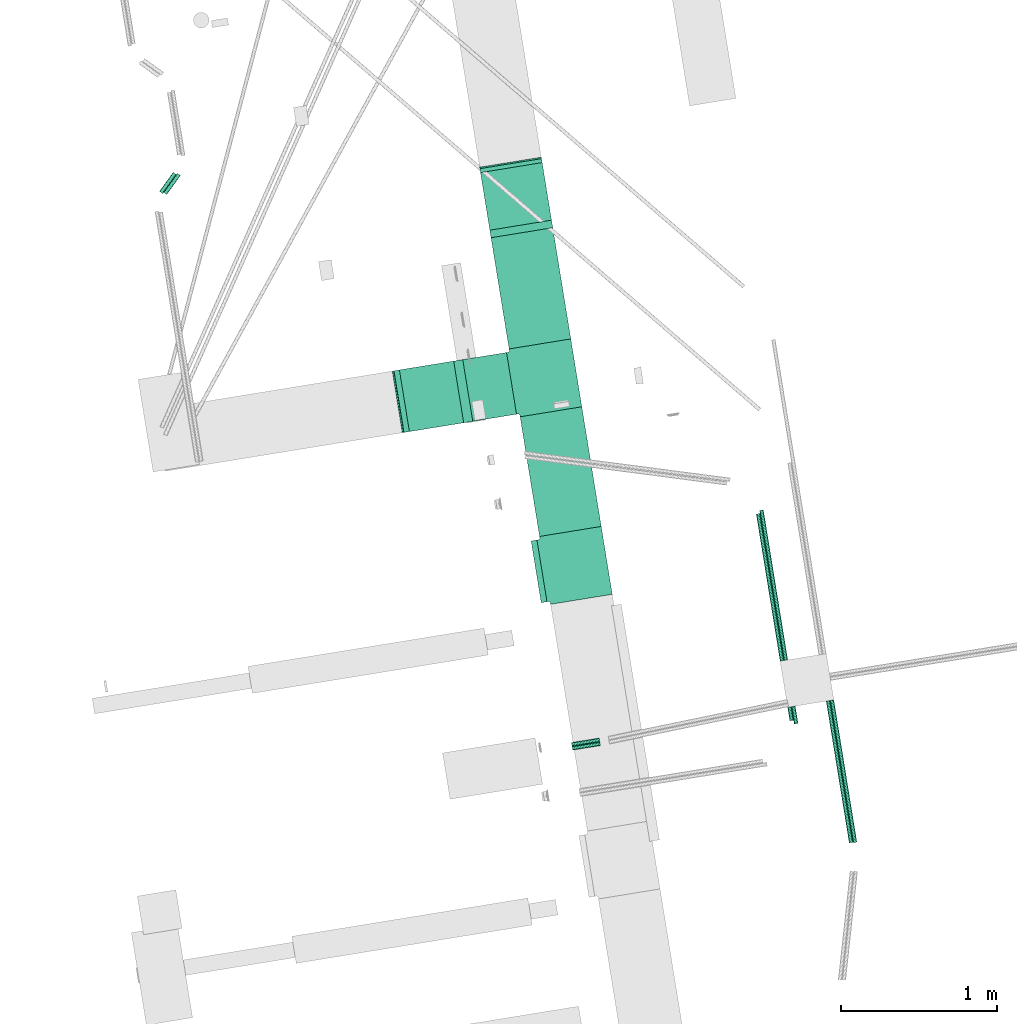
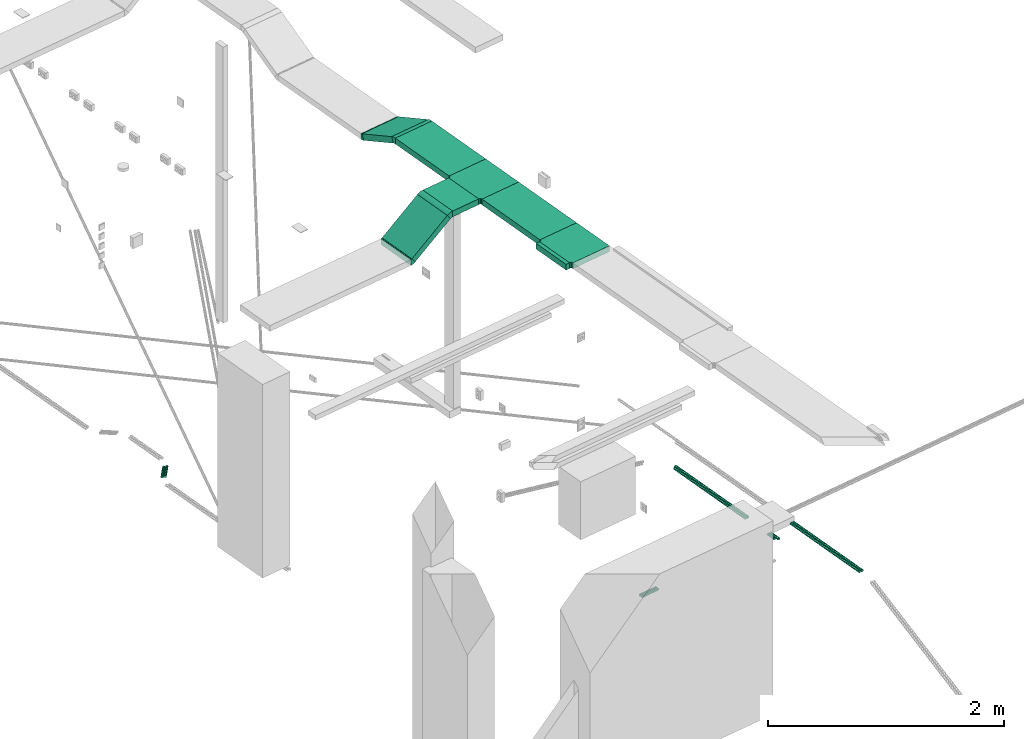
# One storey, part 2 of 33: 16 flow segments, 6 flow fittings.
"""IFC2X3 building model written with IfcOpenShell, lengths in millimetres."""

from ifc_helpers import new_model, entity, si_unit, converted_unit, derived_unit, direction, frame, frame_2d, origin, origin_with_axes, origin_2d_with_axis, place, context, subcontext, project, spatial, polyline, circle_curve, parameter, trimmed, segment, composite_curve, rectangle, circle, outline, extrude, source, transform, mapped, material, type_object, element, save


model = new_model("IFC2X3")

# Units and contexts
plan_context = context("Plan", 3, precision=1e-05, world=origin_with_axes())
model_context = context("Model", 3, precision=0.01, world=origin(), true_north=direction((6.12323399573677e-17, 1.0)))
body_context = subcontext(model_context, "Body", "Model", "MODEL_VIEW")
ifc_project = project(units=[converted_unit("PLANEANGLEUNIT", "DEGREE", entity("IfcPositiveLengthMeasure", 0.0174532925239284), si_unit("PLANEANGLEUNIT", "RADIAN"), dimensions=[0, 0, 0, 0, 0, 0, 0]), si_unit("AREAUNIT", "SQUARE_METRE"), si_unit("LENGTHUNIT", "METRE", prefix="MILLI"), si_unit("MASSUNIT", "GRAM", prefix="KILO"), si_unit("POWERUNIT", "WATT"), si_unit("PRESSUREUNIT", "PASCAL", prefix="KILO"), si_unit("FORCEUNIT", "NEWTON", prefix="KILO"), si_unit("ELECTRICVOLTAGEUNIT", "VOLT"), si_unit("ELECTRICCURRENTUNIT", "AMPERE"), si_unit("THERMODYNAMICTEMPERATUREUNIT", "DEGREE_CELSIUS"), si_unit("TIMEUNIT", "SECOND"), si_unit("VOLUMEUNIT", "CUBIC_METRE"), derived_unit("LINEARVELOCITYUNIT", [(si_unit("LENGTHUNIT", "METRE"), 1), (si_unit("TIMEUNIT", "SECOND"), -1)]), derived_unit("VOLUMETRICFLOWRATEUNIT", [(si_unit("VOLUMEUNIT", "CUBIC_METRE"), 1), (si_unit("TIMEUNIT", "SECOND"), -1)]), derived_unit("THERMALTRANSMITTANCEUNIT", [(si_unit("POWERUNIT", "WATT"), 1), (si_unit("THERMODYNAMICTEMPERATUREUNIT", "KELVIN"), -1), (si_unit("AREAUNIT", "SQUARE_METRE"), -1)]), derived_unit("SOUNDPRESSUREUNIT", [(si_unit("PRESSUREUNIT", "PASCAL"), 1)])], contexts=[model_context, plan_context])

# Site, building, storey
site_placement = place(None, frame((-0.219946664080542, 0.12226179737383, 0.0), z_axis=(0.0, 0.0, 1.0), x_axis=(-0.160236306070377, 0.987078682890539, 0.0)))
site = spatial("IfcSite", under=ifc_project, at=site_placement, Name="Default", CompositionType="ELEMENT")
building_placement = place(site_placement, origin_with_axes())
building = spatial("IfcBuilding", under=site, at=building_placement, CompositionType="ELEMENT")
storey_placement = place(building_placement, frame((0.0, 0.0, 59000.0), z_axis=(0.0, 0.0, 1.0), x_axis=(1.0, 0.0, 0.0)))
storey = spatial("IfcBuildingStorey", under=building, at=storey_placement, Name="Nivå F", CompositionType="ELEMENT", Elevation=59000.0)

# Flow fittings
ifc_material = material(Name="<Unnamed>")
cable_carrier_fitting_type_1 = type_object("IfcCableCarrierFittingType", Name="MC_Ladder Horizontal Tee:10mm Radius", PredefinedType="NOTDEFINED", material=ifc_material)
shared_shape_1 = source(origin(), body_context, "Body", "SweptSolid", [
    extrude(outline(composite_curve([segment(polyline([(84.0, -200.0), (94.0, -200.0)]), True, "CONTINUOUS"), segment(polyline([(94.0, -200.0), (94.0, 200.0)]), True, "CONTINUOUS"), segment(polyline([(94.0, 200.0), (84.0, 200.0)]), True, "CONTINUOUS"), segment(trimmed(circle_curve(frame_2d((84.0, 210.0), x_axis=(0.0, 1.0)), 10.0), [parameter(89.9999999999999)], [parameter(180.0)], True, "PARAMETER"), False, "CONTINUOUS"), segment(polyline([(74.0, 210.0), (74.0, 220.0)]), True, "CONTINUOUS"), segment(polyline([(74.0, 220.0), (-326.0, 220.0)]), True, "CONTINUOUS"), segment(polyline([(-326.0, 220.0), (-326.0, -220.0)]), True, "CONTINUOUS"), segment(polyline([(-326.0, -220.0), (74.0, -220.0)]), True, "CONTINUOUS"), segment(polyline([(74.0, -220.0), (74.0, -210.0)]), True, "CONTINUOUS"), segment(trimmed(circle_curve(frame_2d((84.0, -210.0), x_axis=(0.0, 1.0)), 10.0), [parameter(360.0)], [parameter(89.9999999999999)], True, "PARAMETER"), False, "CONTINUOUS")], self_intersect=False)), frame((0.0, -126.0, -30.0), z_axis=(0.0, 0.0, 1.0), x_axis=(0.0, -1.0, 0.0)), (0.0, 0.0, 1.0), 60.0),
])
for number, where, z_axis, x_axis, name in (
    (1, (769991.824571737, -504237.483203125, 2850.0), (0.0, 0.0, 1.0), (-1.0, 0.0, 0.0), "MC_Ladder Horizontal Tee:10mm Radius"),
    (2, (771207.619460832, -504237.483203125, 2850.0), (0.0, 0.0, 1.0), (-1.0, 0.0, 0.0), "MC_Ladder Horizontal Tee:10mm Radius"),
):
    element("IfcFlowFitting", number, at=place(storey_placement, frame(where, z_axis=z_axis, x_axis=x_axis)), inside=storey, type_object=cable_carrier_fitting_type_1, material=ifc_material, Name=name, ObjectType="MC_Ladder Horizontal Tee:10mm Radius", context=body_context, shape_type="MappedRepresentation", body=[
        mapped(shared_shape_1, transform((0.0, 0.0, 0.0), scale=1.0)),
    ])
cable_carrier_fitting_type_2 = type_object("IfcCableCarrierFittingType", Name="MC_Ladder Vertical Outside Bend:Standard 10mm", PredefinedType="NOTDEFINED", material=ifc_material)
shared_shape_2 = source(origin(), body_context, "Body", "SweptSolid", [
    extrude(outline(composite_curve([segment(polyline([(-21.1853214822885, -35.2026361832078), (-11.1853214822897, -35.2026361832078)]), True, "CONTINUOUS"), segment(trimmed(circle_curve(frame_2d((-11.1853214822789, 34.7973638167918), x_axis=(0.0, -1.0)), 69.9999999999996), [parameter(0.0)], [parameter(35.6391345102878)], True, "PARAMETER"), True, "CONTINUOUS"), segment(polyline([(29.6021527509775, -22.0918438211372), (37.7291824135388, -16.2650617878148)]), True, "CONTINUOUS"), segment(polyline([(37.7291824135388, -16.2650617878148), (2.7684902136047, 32.497116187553)]), True, "CONTINUOUS"), segment(polyline([(2.7684902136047, 32.497116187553), (-5.35853944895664, 26.6703341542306)]), True, "CONTINUOUS"), segment(trimmed(circle_curve(frame_2d((-11.1853214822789, 34.7973638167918), x_axis=(0.0, -1.0)), 9.99999999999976), [parameter(0.0)], [parameter(35.6391345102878)], True, "PARAMETER"), False, "CONTINUOUS"), segment(polyline([(-11.1853214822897, 24.797363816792), (-21.1853214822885, 24.797363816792)]), True, "CONTINUOUS"), segment(polyline([(-21.1853214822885, 24.797363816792), (-21.1853214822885, -35.2026361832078)]), True, "CONTINUOUS")], self_intersect=False)), frame((-1.67234387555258, 5.20263618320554, -200.0)), (0.0, 0.0, 1.0), 400.0),
])
flow_fitting_1_placement = place(storey_placement, frame((771207.619460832, -503710.91466063, 2850.0), z_axis=(-1.0, 0.0, 0.0), x_axis=(0.0, 1.0, 0.0)))
element("IfcFlowFitting", 3, at=flow_fitting_1_placement, inside=storey, type_object=cable_carrier_fitting_type_2, material=ifc_material, Name="MC_Ladder Vertical Outside Bend:Standard 10mm", ObjectType="MC_Ladder Vertical Outside Bend:Standard 10mm", context=body_context, shape_type="MappedRepresentation", body=[
    mapped(shared_shape_2, transform((0.0, 0.0, 0.0), scale=1.0)),
])
cable_carrier_fitting_type_3 = type_object("IfcCableCarrierFittingType", Name="MC_Ladder Vertical Inside Bend_Short:Standard 10mm", PredefinedType="NOTDEFINED", material=ifc_material)
shared_shape_3 = source(origin(), body_context, "Body", "SweptSolid", [
    extrude(outline(composite_curve([segment(polyline([(-14.5130912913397, -34.1829493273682), (-11.5130912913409, -34.1829493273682)]), True, "CONTINUOUS"), segment(trimmed(circle_curve(frame_2d((-11.5130912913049, 35.8170506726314), x_axis=(0.0, -1.0)), 69.9999999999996), [parameter(0.0)], [parameter(35.6391345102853)], True, "PARAMETER"), True, "CONTINUOUS"), segment(polyline([(29.274382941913, -21.072156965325), (31.7124918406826, -19.32412235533)]), True, "CONTINUOUS"), segment(polyline([(31.7124918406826, -19.32412235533), (-3.24820035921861, 29.4380556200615)]), True, "CONTINUOUS"), segment(polyline([(-3.24820035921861, 29.4380556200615), (-5.68630925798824, 27.6900210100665)]), True, "CONTINUOUS"), segment(trimmed(circle_curve(frame_2d((-11.5130912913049, 35.8170506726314), x_axis=(0.0, -1.0)), 9.99999999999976), [parameter(0.0)], [parameter(35.6391345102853)], True, "PARAMETER"), False, "CONTINUOUS"), segment(polyline([(-11.5130912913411, 25.8170506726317), (-14.51309129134, 25.8170506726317)]), True, "CONTINUOUS"), segment(polyline([(-14.51309129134, 25.8170506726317), (-14.5130912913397, -34.1829493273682)]), True, "CONTINUOUS")], self_intersect=False)), frame((-1.34457406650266, 4.18294932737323, -200.0)), (0.0, 0.0, 1.0), 400.0),
])
flow_fitting_2_placement = place(storey_placement, frame((771207.619460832, -503292.483203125, 2550.0), z_axis=(-1.0, 0.0, 0.0), x_axis=(0.0, -1.0, 0.0)))
element("IfcFlowFitting", 4, at=flow_fitting_2_placement, inside=storey, type_object=cable_carrier_fitting_type_3, material=ifc_material, Name="MC_Ladder Vertical Inside Bend_Short:Standard 10mm", ObjectType="MC_Ladder Vertical Inside Bend_Short:Standard 10mm", context=body_context, shape_type="MappedRepresentation", body=[
    mapped(shared_shape_3, transform((0.0, 0.0, 0.0), scale=1.0)),
])
cable_carrier_fitting_type_4 = type_object("IfcCableCarrierFittingType", Name="MC_Ladder Vertical Outside Bend:Standard 10mm", PredefinedType="NOTDEFINED", material=ifc_material)
shared_shape_4 = source(origin(), body_context, "Body", "SweptSolid", [
    extrude(outline(composite_curve([segment(polyline([(-18.2523248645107, -32.9519059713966), (-8.25232486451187, -32.9519059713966)]), True, "CONTINUOUS"), segment(trimmed(circle_curve(frame_2d((-8.25232486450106, 37.048094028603), x_axis=(0.0, -1.0)), 69.9999999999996), [parameter(0.0)], [parameter(25.1148348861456)], True, "PARAMETER"), True, "CONTINUOUS"), segment(polyline([(21.4580464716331, -26.3340314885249), (30.5126358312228, -22.0896927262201)]), True, "CONTINUOUS"), segment(polyline([(30.5126358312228, -22.0896927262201), (5.0466032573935, 32.2378434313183)]), True, "CONTINUOUS"), segment(polyline([(5.0466032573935, 32.2378434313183), (-4.00798610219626, 27.9935046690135)]), True, "CONTINUOUS"), segment(trimmed(circle_curve(frame_2d((-8.25232486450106, 37.048094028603), x_axis=(0.0, -1.0)), 9.99999999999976), [parameter(0.0)], [parameter(25.1148348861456)], True, "PARAMETER"), False, "CONTINUOUS"), segment(polyline([(-8.25232486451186, 27.0480940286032), (-18.2523248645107, 27.0480940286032)]), True, "CONTINUOUS"), segment(polyline([(-18.2523248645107, 27.0480940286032), (-18.2523248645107, -32.9519059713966)]), True, "CONTINUOUS")], self_intersect=False)), frame((-0.65752605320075, 2.95190597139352, -200.0)), (0.0, 0.0, 1.0), 400.0),
])
flow_fitting_3_placement = place(storey_placement, frame((772167.619460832, -504237.483203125, 2850.0), z_axis=(0.0, 1.0, 0.0), x_axis=(1.0, 0.0, 0.0)))
element("IfcFlowFitting", 5, at=flow_fitting_3_placement, inside=storey, type_object=cable_carrier_fitting_type_4, material=ifc_material, Name="MC_Ladder Vertical Outside Bend:Standard 10mm", ObjectType="MC_Ladder Vertical Outside Bend:Standard 10mm", context=body_context, shape_type="MappedRepresentation", body=[
    mapped(shared_shape_4, transform((0.0, 0.0, 0.0), scale=1.0)),
])
cable_carrier_fitting_type_5 = type_object("IfcCableCarrierFittingType", Name="MC_Ladder Vertical Inside Bend_Short:Standard 10mm", PredefinedType="NOTDEFINED", material=ifc_material)
shared_shape_5 = source(origin(), body_context, "Body", "SweptSolid", [
    extrude(outline(composite_curve([segment(polyline([(-11.4177717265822, -32.2091466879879), (-8.41777172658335, -32.2091466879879)]), True, "CONTINUOUS"), segment(trimmed(circle_curve(frame_2d((-8.4177717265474, 37.7908533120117), x_axis=(0.0, -1.0)), 69.9999999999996), [parameter(0.0)], [parameter(25.1148348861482)], True, "PARAMETER"), True, "CONTINUOUS"), segment(polyline([(21.2925996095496, -25.5912722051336), (24.0089764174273, -24.3179705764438)]), True, "CONTINUOUS"), segment(polyline([(24.0089764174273, -24.3179705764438), (-1.45705615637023, 30.0095655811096)]), True, "CONTINUOUS"), segment(polyline([(-1.45705615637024, 30.0095655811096), (-4.17343296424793, 28.7362639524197)]), True, "CONTINUOUS"), segment(trimmed(circle_curve(frame_2d((-8.4177717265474, 37.7908533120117), x_axis=(0.0, -1.0)), 9.99999999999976), [parameter(0.0)], [parameter(25.1148348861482)], True, "PARAMETER"), False, "CONTINUOUS"), segment(polyline([(-8.41777172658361, 27.790853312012), (-11.4177717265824, 27.790853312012)]), True, "CONTINUOUS"), segment(polyline([(-11.4177717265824, 27.790853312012), (-11.4177717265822, -32.2091466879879)]), True, "CONTINUOUS")], self_intersect=False)), frame((-0.492079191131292, 2.20914668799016, -200.0)), (0.0, 0.0, 1.0), 400.0),
])
flow_fitting_4_placement = place(storey_placement, frame((772594.286127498, -504237.483203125, 2650.0), z_axis=(-3.69119405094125e-17, -1.0, -1.33511274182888e-17), x_axis=(0.905458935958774, -2.77555756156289e-17, -0.424433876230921)))
element("IfcFlowFitting", 6, at=flow_fitting_4_placement, inside=storey, type_object=cable_carrier_fitting_type_5, material=ifc_material, Name="MC_Ladder Vertical Inside Bend_Short:Standard 10mm", ObjectType="MC_Ladder Vertical Inside Bend_Short:Standard 10mm", context=body_context, shape_type="MappedRepresentation", body=[
    mapped(shared_shape_5, transform((0.0, 0.0, 0.0), scale=1.0)),
])

# Flow segments
cable_carrier_segment_type_1 = type_object("IfcCableCarrierSegmentType", Name="Cable Tray with Fittings:Kabelbro", PredefinedType="CABLETRAYSEGMENT")
flow_segment_1_placement = place(storey_placement, origin_with_axes())
element("IfcFlowSegment", 7, at=flow_segment_1_placement, inside=storey, type_object=cable_carrier_segment_type_1, Name="Cable Tray with Fittings:Kabelbro", ObjectType="Cable Tray with Fittings:Kabelbro", context=body_context, shape_type="SweptSolid", body=[
    extrude(rectangle(XDim=721.090149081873, YDim=400.000000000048, at=frame_2d((6.93205493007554e-11, 0.0), x_axis=(1.0, 0.0))), frame((771788.164535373, -504237.483203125, 2820.0)), (0.0, 0.0, 1.0), 60.0000000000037),
])
flow_segment_2_placement = place(storey_placement, origin_with_axes())
element("IfcFlowSegment", 8, at=flow_segment_2_placement, inside=storey, type_object=cable_carrier_segment_type_1, Name="Cable Tray with Fittings:Kabelbro", ObjectType="Cable Tray with Fittings:Kabelbro", context=body_context, shape_type="SweptSolid", body=[
    extrude(rectangle(XDim=37.753650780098, YDim=399.999999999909, at=frame_2d((3.46513928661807e-11, 0.0), x_axis=(1.0, 0.0))), frame((769991.824571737, -503998.606377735, 2820.0), z_axis=(0.0, 0.0, 1.0), x_axis=(0.0, 1.0, 0.0)), (0.0, 0.0, 1.0), 60.0000000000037),
])
flow_segment_3_placement = place(storey_placement, origin_with_axes())
element("IfcFlowSegment", 9, at=flow_segment_3_placement, inside=storey, type_object=cable_carrier_segment_type_1, Name="Cable Tray with Fittings:Kabelbro", ObjectType="Cable Tray with Fittings:Kabelbro", context=body_context, shape_type="SweptSolid", body=[
    extrude(rectangle(XDim=59.9999999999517, YDim=476.148616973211, at=frame_2d((2.81801249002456e-11, 2.0193624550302e-11), x_axis=(0.0, 1.0))), frame((771007.619460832, -503498.854471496, 2697.96062628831), z_axis=(1.0, 0.0, 0.0), x_axis=(0.0, 0.812702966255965, -0.582678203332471)), (0.0, 0.0, 1.0), 399.999999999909),
])
flow_segment_4_placement = place(storey_placement, origin_with_axes())
element("IfcFlowSegment", 10, at=flow_segment_4_placement, inside=storey, type_object=cable_carrier_segment_type_1, Name="Cable Tray with Fittings:Kabelbro", ObjectType="Cable Tray with Fittings:Kabelbro", context=body_context, shape_type="SweptSolid", body=[
    extrude(rectangle(XDim=775.794889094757, YDim=400.000000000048, at=frame_2d((-6.9292127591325e-11, 0.0), x_axis=(1.0, 0.0))), frame((770599.722016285, -504237.483203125, 2820.0)), (0.0, 0.0, 1.0), 60.0000000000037),
])
flow_segment_5_placement = place(storey_placement, origin_with_axes())
element("IfcFlowSegment", 11, at=flow_segment_5_placement, inside=storey, type_object=cable_carrier_segment_type_1, Name="Cable Tray with Fittings:Kabelbro", ObjectType="Cable Tray with Fittings:Kabelbro", context=body_context, shape_type="SweptSolid", body=[
    extrude(rectangle(XDim=283.710877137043, YDim=399.999999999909, at=origin_2d_with_axis()), frame((771207.619460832, -503875.627764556, 2820.0), z_axis=(0.0, 0.0, 1.0), x_axis=(0.0, 1.0, 0.0)), (0.0, 0.0, 1.0), 60.0000000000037),
])
flow_segment_6_placement = place(storey_placement, origin_with_axes())
element("IfcFlowSegment", 12, at=flow_segment_6_placement, inside=storey, type_object=cable_carrier_segment_type_1, Name="Cable Tray with Fittings:Kabelbro", ObjectType="Cable Tray with Fittings:Kabelbro", context=body_context, shape_type="SweptSolid", body=[
    extrude(rectangle(XDim=59.9999999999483, YDim=400.000000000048, at=frame_2d((-3.92041954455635e-12, 0.0), x_axis=(1.0, 0.0))), frame((772184.741554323, -504237.483203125, 2841.97401867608), z_axis=(0.905458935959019, 0.0, -0.424433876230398), x_axis=(0.424433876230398, 0.0, 0.905458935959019)), (0.0, 0.0, 1.0), 440.396219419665),
])
cable_carrier_segment_type_2 = type_object("IfcCableCarrierSegmentType", Name="Conduit without Fittings:Conduit", PredefinedType="CONDUITSEGMENT")
flow_segment_7_placement = place(storey_placement, origin_with_axes())
element("IfcFlowSegment", 13, at=flow_segment_7_placement, inside=storey, type_object=cable_carrier_segment_type_2, Name="Conduit without Fittings:Conduit", ObjectType="Conduit without Fittings:Conduit", context=body_context, shape_type="SweptSolid", body=[
    extrude(circle(Radius=12.5, at=frame_2d((0.0, 8.66293703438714e-12), x_axis=(1.0, 0.0))), frame((767955.43538373, -505716.577763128, -57.500000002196), z_axis=(1.0, 0.0, 0.0), x_axis=(0.0, -1.0, 0.0)), (0.0, 0.0, 1.0), 922.184260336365),
])
flow_segment_8_placement = place(storey_placement, origin_with_axes())
element("IfcFlowSegment", 14, at=flow_segment_8_placement, inside=storey, type_object=cable_carrier_segment_type_2, Name="Conduit without Fittings:Conduit", ObjectType="Conduit without Fittings:Conduit", context=body_context, shape_type="SweptSolid", body=[
    extrude(circle(Radius=12.5, at=frame_2d((0.0, 8.66293703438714e-12), x_axis=(1.0, 0.0))), frame((767958.822200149, -505691.577763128, -57.500000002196), z_axis=(1.0, 0.0, 0.0), x_axis=(0.0, -1.0, 0.0)), (0.0, 0.0, 1.0), 918.797443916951),
])
flow_segment_9_placement = place(storey_placement, origin_with_axes())
element("IfcFlowSegment", 15, at=flow_segment_9_placement, inside=storey, type_object=cable_carrier_segment_type_2, Name="Conduit without Fittings:Conduit", ObjectType="Conduit without Fittings:Conduit", context=body_context, shape_type="SweptSolid", body=[
    extrude(circle(Radius=12.5, at=frame_2d((0.0, 8.66293703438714e-12), x_axis=(1.0, 0.0))), frame((769177.619644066, -505441.577763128, -57.500000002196), z_axis=(1.0, 0.0, 0.0), x_axis=(0.0, -1.0, 0.0)), (0.0, 0.0, 1.0), 953.624619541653),
])
flow_segment_10_placement = place(storey_placement, origin_with_axes())
element("IfcFlowSegment", 16, at=flow_segment_10_placement, inside=storey, type_object=cable_carrier_segment_type_2, Name="Conduit without Fittings:Conduit", ObjectType="Conduit without Fittings:Conduit", context=body_context, shape_type="SweptSolid", body=[
    extrude(circle(Radius=12.5, at=frame_2d((0.0, 8.66293703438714e-12), x_axis=(1.0, 0.0))), frame((769177.619644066, -505466.577763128, -57.500000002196), z_axis=(1.0, 0.0, 0.0), x_axis=(0.0, -1.0, 0.0)), (0.0, 0.0, 1.0), 973.156760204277),
])
flow_segment_11_placement = place(storey_placement, origin_with_axes())
element("IfcFlowSegment", 17, at=flow_segment_11_placement, inside=storey, type_object=cable_carrier_segment_type_2, Name="Conduit without Fittings:Conduit", ObjectType="Conduit without Fittings:Conduit", context=body_context, shape_type="SweptSolid", body=[
    extrude(circle(Radius=12.5, at=origin_2d_with_axis()), frame((768865.107824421, -504207.553153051, -57.5000000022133), z_axis=(0.0, 1.0, 0.0), x_axis=(-1.0, 0.0, 0.0)), (0.0, 0.0, 1.0), 180.076785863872),
])
flow_segment_12_placement = place(storey_placement, origin_with_axes())
element("IfcFlowSegment", 18, at=flow_segment_12_placement, inside=storey, type_object=cable_carrier_segment_type_2, Name="Conduit without Fittings:Conduit", ObjectType="Conduit without Fittings:Conduit", context=body_context, shape_type="SweptSolid", body=[
    extrude(circle(Radius=12.5, at=origin_2d_with_axis()), frame((768840.107824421, -504207.553153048, -57.5000000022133), z_axis=(0.0, 1.0, 0.0), x_axis=(-1.0, 0.0, 0.0)), (0.0, 0.0, 1.0), 180.076785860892),
])
flow_segment_13_placement = place(storey_placement, origin_with_axes())
element("IfcFlowSegment", 19, at=flow_segment_13_placement, inside=storey, type_object=cable_carrier_segment_type_2, Name="Conduit without Fittings:Conduit", ObjectType="Conduit without Fittings:Conduit", context=body_context, shape_type="SweptSolid", body=[
    extrude(circle(Radius=12.5, at=frame_2d((0.0, 8.66293703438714e-12), x_axis=(1.0, 0.0))), frame((768790.107824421, -505441.577763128, -57.500000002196), z_axis=(1.0, 0.0, 0.0), x_axis=(0.0, -1.0, 0.0)), (0.0, 0.0, 1.0), 87.5118196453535),
])
flow_segment_14_placement = place(storey_placement, origin_with_axes())
element("IfcFlowSegment", 20, at=flow_segment_14_placement, inside=storey, type_object=cable_carrier_segment_type_2, Name="Conduit without Fittings:Conduit", ObjectType="Conduit without Fittings:Conduit", context=body_context, shape_type="SweptSolid", body=[
    extrude(circle(Radius=12.5, at=frame_2d((0.0, 8.66293703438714e-12), x_axis=(1.0, 0.0))), frame((768765.107824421, -505466.577763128, -57.500000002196), z_axis=(1.0, 0.0, 0.0), x_axis=(0.0, -1.0, 0.0)), (0.0, 0.0, 1.0), 112.511819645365),
])
flow_segment_15_placement = place(storey_placement, origin_with_axes())
element("IfcFlowSegment", 21, at=flow_segment_15_placement, inside=storey, type_object=cable_carrier_segment_type_2, Name="Conduit without Fittings:Conduit", ObjectType="Conduit without Fittings:Conduit", context=body_context, shape_type="SweptSolid", body=[
    extrude(circle(Radius=12.5, at=origin_2d_with_axis()), frame((772868.827326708, -502130.513507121, -57.5000000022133), z_axis=(-0.707106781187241, 0.707106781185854, 0.0), x_axis=(-0.707106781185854, -0.707106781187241, 0.0)), (0.0, 0.0, 1.0), 150.000000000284),
])
flow_segment_16_placement = place(storey_placement, origin_with_axes())
element("IfcFlowSegment", 22, at=flow_segment_16_placement, inside=storey, type_object=cable_carrier_segment_type_2, Name="Conduit without Fittings:Conduit", ObjectType="Conduit without Fittings:Conduit", context=body_context, shape_type="SweptSolid", body=[
    extrude(circle(Radius=12.5, at=frame_2d((0.0, -8.66293703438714e-12), x_axis=(1.0, 0.0))), frame((772879.182665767, -502105.513507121, -57.500000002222), z_axis=(-0.707106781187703, 0.707106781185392, 0.0), x_axis=(0.707106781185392, 0.707106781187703, 0.0)), (0.0, 0.0, 1.0), 150.000000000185),
])

save(model, "model.ifc")
